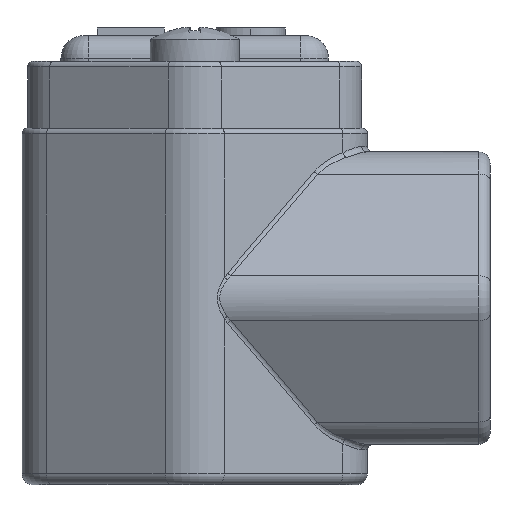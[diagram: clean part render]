
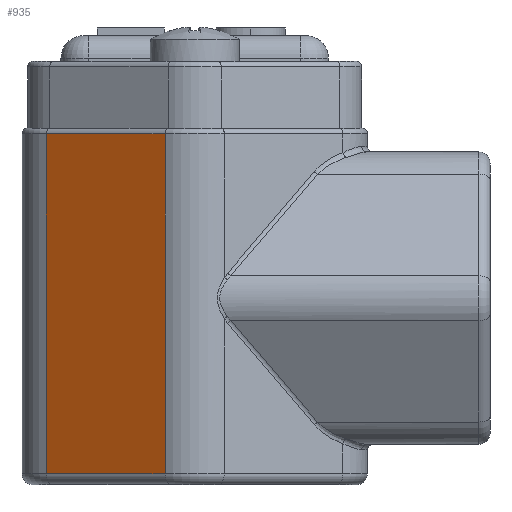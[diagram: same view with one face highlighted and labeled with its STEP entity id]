
A CAD part, left-side view. The second image highlights one B-rep face of the part: STEP entity #935.
In plain terms, the highlighted planar face has unit normal (-0.828, 0.56, 0).
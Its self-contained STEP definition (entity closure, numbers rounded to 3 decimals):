
#694 = CARTESIAN_POINT ( 'NONE',  ( -74.835, 3.719, -19.533 ) ) ;
#935 = ADVANCED_FACE ( 'NONE', ( #8174 ), #3679, .T. ) ;
#1042 = CARTESIAN_POINT ( 'NONE',  ( -67.637, 14.359, -4.533 ) ) ;
#1532 = DIRECTION ( 'NONE',  ( 0., 0., 1. ) ) ;
#1580 = DIRECTION ( 'NONE',  ( -0.828, 0.56, 0. ) ) ;
#2096 = LINE ( 'NONE', #12509, #7142 ) ;
#3060 = LINE ( 'NONE', #1042, #11585 ) ;
#3327 = DIRECTION ( 'NONE',  ( 0.56, 0.828, 0. ) ) ;
#3388 = LINE ( 'NONE', #13510, #4531 ) ;
#3679 = PLANE ( 'NONE',  #4400 ) ;
#3783 = CARTESIAN_POINT ( 'NONE',  ( -74.835, 3.719, 10.967 ) ) ;
#4049 = LINE ( 'NONE', #6936, #5516 ) ;
#4400 = AXIS2_PLACEMENT_3D ( 'NONE', #11013, #1580, #1532 ) ;
#4476 = ORIENTED_EDGE ( 'NONE', *, *, #9396, .F. ) ;
#4494 = ORIENTED_EDGE ( 'NONE', *, *, #10452, .F. ) ;
#4531 = VECTOR ( 'NONE', #13324, 1000. ) ;
#5147 = ORIENTED_EDGE ( 'NONE', *, *, #5823, .F. ) ;
#5445 = VERTEX_POINT ( 'NONE', #3783 ) ;
#5516 = VECTOR ( 'NONE', #8083, 1000. ) ;
#5823 = EDGE_CURVE ( 'NONE', #7902, #9845, #2096, .T. ) ;
#6936 = CARTESIAN_POINT ( 'NONE',  ( -63.861, 19.942, 10.967 ) ) ;
#7142 = VECTOR ( 'NONE', #3327, 1000. ) ;
#7902 = VERTEX_POINT ( 'NONE', #694 ) ;
#8083 = DIRECTION ( 'NONE',  ( -0.56, -0.828, 0. ) ) ;
#8174 = FACE_OUTER_BOUND ( 'NONE', #11787, .T. ) ;
#9061 = ORIENTED_EDGE ( 'NONE', *, *, #10005, .F. ) ;
#9074 = CARTESIAN_POINT ( 'NONE',  ( -67.637, 14.359, 10.967 ) ) ;
#9396 = EDGE_CURVE ( 'NONE', #5445, #7902, #3388, .T. ) ;
#9845 = VERTEX_POINT ( 'NONE', #13366 ) ;
#10005 = EDGE_CURVE ( 'NONE', #9845, #13283, #3060, .T. ) ;
#10452 = EDGE_CURVE ( 'NONE', #13283, #5445, #4049, .T. ) ;
#11013 = CARTESIAN_POINT ( 'NONE',  ( -66.15, 16.558, 11.467 ) ) ;
#11585 = VECTOR ( 'NONE', #13598, 1000. ) ;
#11787 = EDGE_LOOP ( 'NONE', ( #4476, #4494, #9061, #5147 ) ) ;
#12509 = CARTESIAN_POINT ( 'NONE',  ( -63.861, 19.942, -19.533 ) ) ;
#13283 = VERTEX_POINT ( 'NONE', #9074 ) ;
#13324 = DIRECTION ( 'NONE',  ( 0., 0., -1. ) ) ;
#13366 = CARTESIAN_POINT ( 'NONE',  ( -67.637, 14.359, -19.533 ) ) ;
#13510 = CARTESIAN_POINT ( 'NONE',  ( -74.835, 3.719, 11.467 ) ) ;
#13598 = DIRECTION ( 'NONE',  ( 0., 0., 1. ) ) ;
